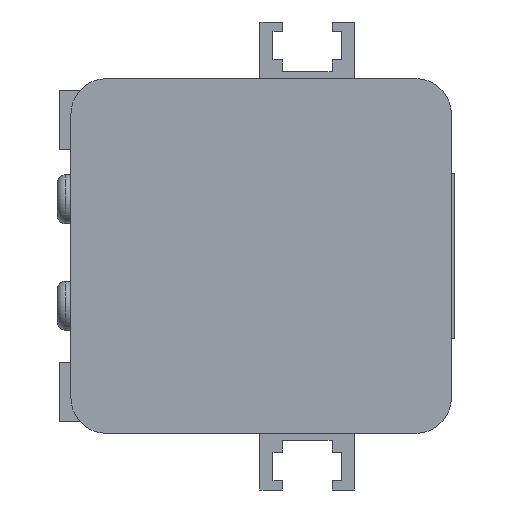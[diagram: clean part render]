
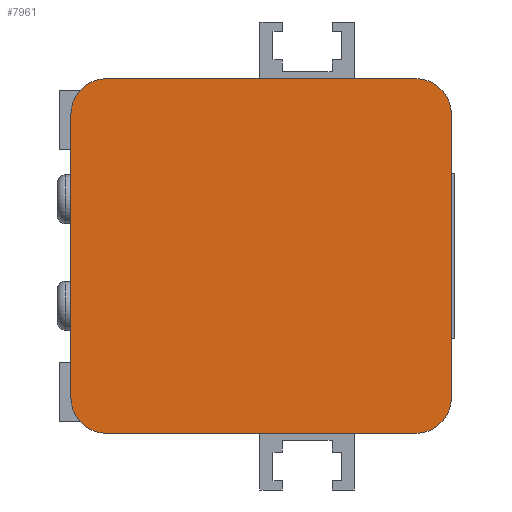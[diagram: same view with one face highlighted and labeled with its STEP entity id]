
A CAD part, left-side view. The second image highlights one B-rep face of the part: STEP entity #7961.
In plain terms, the highlighted planar face has unit normal (-1, 0, 0) as drawn and (0, 0, -1) by its records, which use the part's own axes.
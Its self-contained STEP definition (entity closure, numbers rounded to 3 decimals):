
#646=LINE('',#12121,#1430);
#652=LINE('',#12135,#1436);
#655=LINE('',#12148,#1439);
#689=LINE('',#12218,#1473);
#1430=VECTOR('',#9291,26.2);
#1436=VECTOR('',#9305,24.);
#1439=VECTOR('',#9324,26.2);
#1473=VECTOR('',#9366,24.);
#2059=PLANE('',#8464);
#2497=FACE_OUTER_BOUND('',#2972,.T.);
#2972=EDGE_LOOP('',(#6097,#6098,#6099,#6100,#6101,#6102,#6103,#6104));
#3359=CIRCLE('',#8451,3.);
#3364=CIRCLE('',#8460,3.);
#3365=CIRCLE('',#8465,3.);
#3366=CIRCLE('',#8466,3.);
#3724=VERTEX_POINT('',#12119);
#3725=VERTEX_POINT('',#12120);
#3728=VERTEX_POINT('',#12129);
#3729=VERTEX_POINT('',#12134);
#3730=VERTEX_POINT('',#12143);
#3731=VERTEX_POINT('',#12147);
#3762=VERTEX_POINT('',#12215);
#3763=VERTEX_POINT('',#12217);
#4625=EDGE_CURVE('',#3724,#3725,#646,.T.);
#4630=EDGE_CURVE('',#3725,#3728,#3359,.T.);
#4633=EDGE_CURVE('',#3728,#3729,#652,.T.);
#4638=EDGE_CURVE('',#3729,#3730,#3364,.T.);
#4640=EDGE_CURVE('',#3730,#3731,#655,.T.);
#4674=EDGE_CURVE('',#3762,#3724,#3365,.T.);
#4675=EDGE_CURVE('',#3763,#3762,#689,.T.);
#4676=EDGE_CURVE('',#3731,#3763,#3366,.T.);
#6097=ORIENTED_EDGE('',*,*,#4638,.F.);
#6098=ORIENTED_EDGE('',*,*,#4633,.F.);
#6099=ORIENTED_EDGE('',*,*,#4630,.F.);
#6100=ORIENTED_EDGE('',*,*,#4625,.F.);
#6101=ORIENTED_EDGE('',*,*,#4674,.F.);
#6102=ORIENTED_EDGE('',*,*,#4675,.F.);
#6103=ORIENTED_EDGE('',*,*,#4676,.F.);
#6104=ORIENTED_EDGE('',*,*,#4640,.F.);
#7961=ADVANCED_FACE('',(#2497),#2059,.F.);
#8451=AXIS2_PLACEMENT_3D('',#12130,#9298,#9299);
#8460=AXIS2_PLACEMENT_3D('',#12144,#9319,#9320);
#8464=AXIS2_PLACEMENT_3D('',#12214,#9362,#9363);
#8465=AXIS2_PLACEMENT_3D('',#12216,#9364,#9365);
#8466=AXIS2_PLACEMENT_3D('',#12219,#9367,#9368);
#9291=DIRECTION('',(0.,1.,0.));
#9298=DIRECTION('center_axis',(0.,0.,1.));
#9299=DIRECTION('ref_axis',(0.,-1.,0.));
#9305=DIRECTION('',(-1.,0.,0.));
#9319=DIRECTION('center_axis',(0.,0.,1.));
#9320=DIRECTION('ref_axis',(1.,0.,0.));
#9324=DIRECTION('',(0.,-1.,0.));
#9362=DIRECTION('center_axis',(0.,0.,1.));
#9363=DIRECTION('ref_axis',(1.,0.,0.));
#9364=DIRECTION('center_axis',(0.,0.,1.));
#9365=DIRECTION('ref_axis',(-1.,0.,0.));
#9366=DIRECTION('',(1.,0.,0.));
#9367=DIRECTION('center_axis',(0.,0.,1.));
#9368=DIRECTION('ref_axis',(0.,1.,0.));
#12119=CARTESIAN_POINT('',(17.105,-11.4,-80.));
#12120=CARTESIAN_POINT('',(17.105,14.8,-80.));
#12121=CARTESIAN_POINT('',(17.105,-11.4,-80.));
#12129=CARTESIAN_POINT('',(14.105,17.8,-80.));
#12130=CARTESIAN_POINT('Origin',(14.105,14.8,-80.));
#12134=CARTESIAN_POINT('',(-9.895,17.8,-80.));
#12135=CARTESIAN_POINT('',(14.105,17.8,-80.));
#12143=CARTESIAN_POINT('',(-12.895,14.8,-80.));
#12144=CARTESIAN_POINT('Origin',(-9.895,14.8,-80.));
#12147=CARTESIAN_POINT('',(-12.895,-11.4,-80.));
#12148=CARTESIAN_POINT('',(-12.895,14.8,-80.));
#12214=CARTESIAN_POINT('Origin',(2.105,1.7,-80.));
#12215=CARTESIAN_POINT('',(14.105,-14.4,-80.));
#12216=CARTESIAN_POINT('Origin',(14.105,-11.4,-80.));
#12217=CARTESIAN_POINT('',(-9.895,-14.4,-80.));
#12218=CARTESIAN_POINT('',(-9.895,-14.4,-80.));
#12219=CARTESIAN_POINT('Origin',(-9.895,-11.4,-80.));
